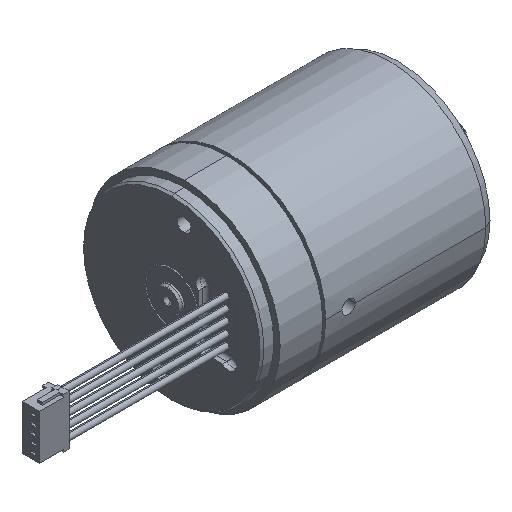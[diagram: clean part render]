
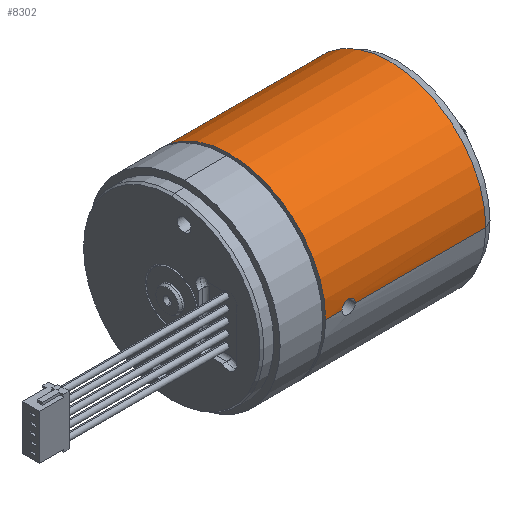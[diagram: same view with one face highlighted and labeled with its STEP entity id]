
A CAD part, isometric view. The second image highlights one B-rep face of the part: STEP entity #8302.
In plain terms, the highlighted cylindrical face has radius 11.5 mm (diameter 23 mm), a partial arc.
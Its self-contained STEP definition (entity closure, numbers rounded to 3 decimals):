
#114 = VERTEX_POINT ( 'NONE', #8420 ) ;
#193 = CARTESIAN_POINT ( 'NONE',  ( -10.25, -11.5, 0. ) ) ;
#426 = CARTESIAN_POINT ( 'NONE',  ( -8.959, -11.482, 0.64 ) ) ;
#1007 = CIRCLE ( 'NONE', #11086, 11.5 ) ;
#1033 = CARTESIAN_POINT ( 'NONE',  ( -9.346, -11.472, 0.8 ) ) ;
#1233 = CARTESIAN_POINT ( 'NONE',  ( -8.671, -11.499, 0.209 ) ) ;
#1360 = VERTEX_POINT ( 'NONE', #7255 ) ;
#1404 = CARTESIAN_POINT ( 'NONE',  ( -8.65, 11.5, 0.209 ) ) ;
#1482 = CARTESIAN_POINT ( 'NONE',  ( -8.958, 11.482, 0.639 ) ) ;
#1609 = ORIENTED_EDGE ( 'NONE', *, *, #2553, .T. ) ;
#1664 = CARTESIAN_POINT ( 'NONE',  ( 7., -11.5, 0. ) ) ;
#1887 = VERTEX_POINT ( 'NONE', #5216 ) ;
#2367 = CIRCLE ( 'NONE', #8386, 11.5 ) ;
#2527 = B_SPLINE_CURVE_WITH_KNOTS ( 'NONE', 3,
 ( #5931, #1404, #8675, #1482, #3362, #10587, #2577, #3404, #3445, #11596, #11552, #8046, #10657, #11678 ),
 .UNSPECIFIED., .F., .F.,
 ( 4, 2, 2, 2, 2, 2, 4 ),
 ( 0.003, 0.003, 0.003, 0.004, 0.004, 0.004, 0.005 ),
 .UNSPECIFIED. ) ;
#2553 = EDGE_CURVE ( 'NONE', #5768, #9321, #11249, .T. ) ;
#2577 = CARTESIAN_POINT ( 'NONE',  ( -9.344, 11.472, 0.8 ) ) ;
#2738 = ORIENTED_EDGE ( 'NONE', *, *, #11549, .T. ) ;
#2835 = CARTESIAN_POINT ( 'NONE',  ( -10.25, 11.5, 0. ) ) ;
#2958 = VERTEX_POINT ( 'NONE', #3883 ) ;
#2968 = LINE ( 'NONE', #5927, #4375 ) ;
#2969 = CARTESIAN_POINT ( 'NONE',  ( -10.25, -11.5, 0.106 ) ) ;
#3022 = EDGE_CURVE ( 'NONE', #1360, #5977, #1007, .T. ) ;
#3037 = EDGE_CURVE ( 'NONE', #114, #2958, #3160, .T. ) ;
#3080 = CARTESIAN_POINT ( 'NONE',  ( -8.81, -11.49, 0.491 ) ) ;
#3160 = LINE ( 'NONE', #7446, #5703 ) ;
#3306 = CARTESIAN_POINT ( 'NONE',  ( -8.65, -11.5, 0. ) ) ;
#3362 = CARTESIAN_POINT ( 'NONE',  ( -9.046, 11.479, 0.699 ) ) ;
#3404 = CARTESIAN_POINT ( 'NONE',  ( -9.555, 11.472, 0.8 ) ) ;
#3445 = CARTESIAN_POINT ( 'NONE',  ( -9.659, 11.474, 0.779 ) ) ;
#3741 = CARTESIAN_POINT ( 'NONE',  ( 9.868, -11.5, 0. ) ) ;
#3883 = CARTESIAN_POINT ( 'NONE',  ( 7., 11.5, 0. ) ) ;
#3950 = CARTESIAN_POINT ( 'NONE',  ( -9.047, -11.479, 0.699 ) ) ;
#3981 = CARTESIAN_POINT ( 'NONE',  ( -9.241, -11.474, 0.779 ) ) ;
#4030 = CARTESIAN_POINT ( 'NONE',  ( 9.868, 11.5, 0. ) ) ;
#4055 = CARTESIAN_POINT ( 'NONE',  ( -8.751, -11.493, 0.403 ) ) ;
#4351 = ORIENTED_EDGE ( 'NONE', *, *, #7702, .F. ) ;
#4375 = VECTOR ( 'NONE', #5970, 1000. ) ;
#4752 = DIRECTION ( 'NONE',  ( -1., 0., 0. ) ) ;
#5216 = CARTESIAN_POINT ( 'NONE',  ( -10.25, -11.5, 0. ) ) ;
#5229 = LINE ( 'NONE', #4030, #9206 ) ;
#5692 = CARTESIAN_POINT ( 'NONE',  ( -9.868, -11.479, 0.713 ) ) ;
#5703 = VECTOR ( 'NONE', #8368, 1000. ) ;
#5711 = DIRECTION ( 'NONE',  ( 1., 0., 0. ) ) ;
#5768 = VERTEX_POINT ( 'NONE', #3306 ) ;
#5845 = DIRECTION ( 'NONE',  ( 1., 0., 0. ) ) ;
#5927 = CARTESIAN_POINT ( 'NONE',  ( 9.868, -11.5, 0. ) ) ;
#5931 = CARTESIAN_POINT ( 'NONE',  ( -8.65, 11.5, 0. ) ) ;
#5970 = DIRECTION ( 'NONE',  ( 1., 0., 0. ) ) ;
#5977 = VERTEX_POINT ( 'NONE', #9967 ) ;
#6034 = DIRECTION ( 'NONE',  ( 1., 0., 0. ) ) ;
#6182 = VERTEX_POINT ( 'NONE', #2835 ) ;
#6206 = FACE_OUTER_BOUND ( 'NONE', #10170, .T. ) ;
#6405 = VECTOR ( 'NONE', #5711, 1000. ) ;
#6448 = CARTESIAN_POINT ( 'NONE',  ( -10.229, -11.498, 0.21 ) ) ;
#6483 = CARTESIAN_POINT ( 'NONE',  ( -10.089, -11.49, 0.492 ) ) ;
#6497 = CYLINDRICAL_SURFACE ( 'NONE', #9499, 11.5 ) ;
#6601 = CARTESIAN_POINT ( 'NONE',  ( -9.659, -11.472, 0.8 ) ) ;
#6751 = DIRECTION ( 'NONE',  ( 0., 1., 0. ) ) ;
#6828 = B_SPLINE_CURVE_WITH_KNOTS ( 'NONE', 3,
 ( #193, #2969, #6448, #10116, #6483, #5692, #6601, #1033, #3981, #3950, #426, #3080, #4055, #1233, #9379, #10304 ),
 .UNSPECIFIED., .F., .F.,
 ( 4, 2, 2, 2, 2, 2, 2, 4 ),
 ( 0., 0., 0.001, 0.001, 0.002, 0.002, 0.002, 0.003 ),
 .UNSPECIFIED. ) ;
#6840 = ORIENTED_EDGE ( 'NONE', *, *, #3037, .F. ) ;
#6907 = CARTESIAN_POINT ( 'NONE',  ( 7., 0., 0. ) ) ;
#7195 = ORIENTED_EDGE ( 'NONE', *, *, #3022, .F. ) ;
#7255 = CARTESIAN_POINT ( 'NONE',  ( -12.2, -11.5, 0. ) ) ;
#7446 = CARTESIAN_POINT ( 'NONE',  ( 9.868, 11.5, 0. ) ) ;
#7702 = EDGE_CURVE ( 'NONE', #5977, #6182, #5229, .T. ) ;
#7858 = EDGE_CURVE ( 'NONE', #1360, #1887, #2968, .T. ) ;
#8046 = CARTESIAN_POINT ( 'NONE',  ( -10.163, 11.493, 0.419 ) ) ;
#8302 = ADVANCED_FACE ( 'NONE', ( #6206 ), #6497, .T. ) ;
#8368 = DIRECTION ( 'NONE',  ( 1., 0., 0. ) ) ;
#8386 = AXIS2_PLACEMENT_3D ( 'NONE', #6907, #6034, #9651 ) ;
#8420 = CARTESIAN_POINT ( 'NONE',  ( -8.65, 11.5, 0. ) ) ;
#8675 = CARTESIAN_POINT ( 'NONE',  ( -8.737, 11.493, 0.418 ) ) ;
#8779 = ORIENTED_EDGE ( 'NONE', *, *, #9083, .T. ) ;
#8805 = ORIENTED_EDGE ( 'NONE', *, *, #9165, .F. ) ;
#9083 = EDGE_CURVE ( 'NONE', #1887, #5768, #6828, .T. ) ;
#9165 = EDGE_CURVE ( 'NONE', #2958, #9321, #2367, .T. ) ;
#9206 = VECTOR ( 'NONE', #5845, 1000. ) ;
#9232 = CARTESIAN_POINT ( 'NONE',  ( -12.2, 0., 0. ) ) ;
#9321 = VERTEX_POINT ( 'NONE', #1664 ) ;
#9346 = DIRECTION ( 'NONE',  ( 0., -1., 0. ) ) ;
#9379 = CARTESIAN_POINT ( 'NONE',  ( -8.65, -11.5, 0.104 ) ) ;
#9499 = AXIS2_PLACEMENT_3D ( 'NONE', #9533, #10338, #6751 ) ;
#9533 = CARTESIAN_POINT ( 'NONE',  ( 9.868, 0., 0. ) ) ;
#9651 = DIRECTION ( 'NONE',  ( 0., 1., 0. ) ) ;
#9967 = CARTESIAN_POINT ( 'NONE',  ( -12.2, 11.5, 0. ) ) ;
#10116 = CARTESIAN_POINT ( 'NONE',  ( -10.149, -11.493, 0.403 ) ) ;
#10170 = EDGE_LOOP ( 'NONE', ( #7195, #10315, #8779, #1609, #8805, #6840, #2738, #4351 ) ) ;
#10304 = CARTESIAN_POINT ( 'NONE',  ( -8.65, -11.5, 0. ) ) ;
#10315 = ORIENTED_EDGE ( 'NONE', *, *, #7858, .T. ) ;
#10338 = DIRECTION ( 'NONE',  ( 1., 0., 0. ) ) ;
#10587 = CARTESIAN_POINT ( 'NONE',  ( -9.24, 11.474, 0.779 ) ) ;
#10657 = CARTESIAN_POINT ( 'NONE',  ( -10.25, 11.5, 0.211 ) ) ;
#11086 = AXIS2_PLACEMENT_3D ( 'NONE', #9232, #4752, #9346 ) ;
#11249 = LINE ( 'NONE', #3741, #6405 ) ;
#11549 = EDGE_CURVE ( 'NONE', #114, #6182, #2527, .T. ) ;
#11552 = CARTESIAN_POINT ( 'NONE',  ( -9.941, 11.482, 0.64 ) ) ;
#11596 = CARTESIAN_POINT ( 'NONE',  ( -9.853, 11.479, 0.699 ) ) ;
#11678 = CARTESIAN_POINT ( 'NONE',  ( -10.25, 11.5, 0. ) ) ;
